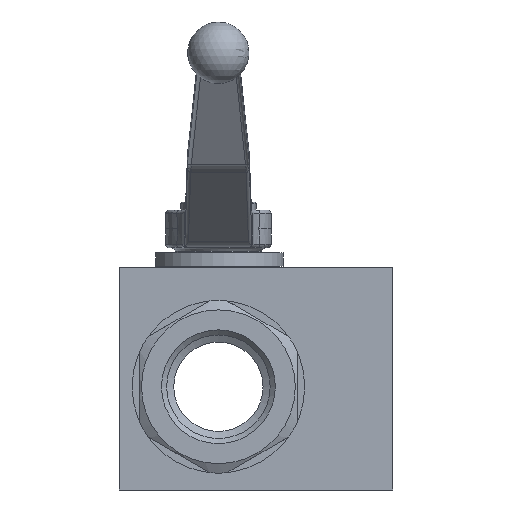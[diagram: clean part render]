
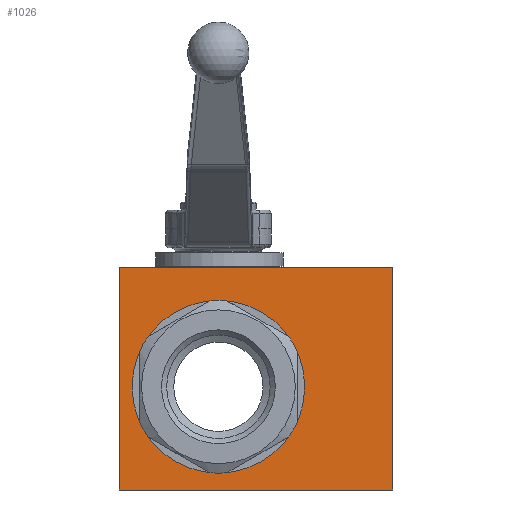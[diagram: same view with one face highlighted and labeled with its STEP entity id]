
A CAD part, front view. The second image highlights one B-rep face of the part: STEP entity #1026.
In plain terms, the highlighted planar face has unit normal (0, -1, 0).
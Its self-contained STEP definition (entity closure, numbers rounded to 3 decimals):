
#1026 = ADVANCED_FACE( '', ( #2000, #2001 ), #2002, .T. );
#2000 = FACE_BOUND( '', #3766, .T. );
#2001 = FACE_OUTER_BOUND( '', #3767, .T. );
#2002 = PLANE( '', #3768 );
#3766 = EDGE_LOOP( '', ( #6026 ) );
#3767 = EDGE_LOOP( '', ( #6027, #6028, #6029, #6030 ) );
#3768 = AXIS2_PLACEMENT_3D( '', #6031, #6032, #6033 );
#6026 = ORIENTED_EDGE( '', *, *, #6851, .F. );
#6027 = ORIENTED_EDGE( '', *, *, #7353, .T. );
#6028 = ORIENTED_EDGE( '', *, *, #6666, .T. );
#6029 = ORIENTED_EDGE( '', *, *, #6580, .T. );
#6030 = ORIENTED_EDGE( '', *, *, #7091, .T. );
#6031 = CARTESIAN_POINT( '', ( -29., -32.5, 34.8 ) );
#6032 = DIRECTION( '', ( 0., -1., 0. ) );
#6033 = DIRECTION( '', ( 0., 0., -1. ) );
#6580 = EDGE_CURVE( '', #7676, #7674, #7677, .T. );
#6666 = EDGE_CURVE( '', #7820, #7676, #7821, .T. );
#6851 = EDGE_CURVE( '', #8124, #8124, #8125, .T. );
#7091 = EDGE_CURVE( '', #7674, #8466, #8468, .T. );
#7353 = EDGE_CURVE( '', #8466, #7820, #8789, .T. );
#7674 = VERTEX_POINT( '', #9831 );
#7676 = VERTEX_POINT( '', #9834 );
#7677 = LINE( '', #9835, #9836 );
#7820 = VERTEX_POINT( '', #10294 );
#7821 = LINE( '', #10295, #10296 );
#8124 = VERTEX_POINT( '', #10947 );
#8125 = CIRCLE( '', #10948, 25.25 );
#8466 = VERTEX_POINT( '', #12019 );
#8468 = LINE( '', #12022, #12023 );
#8789 = LINE( '', #12694, #12695 );
#9831 = CARTESIAN_POINT( '', ( 51., -32.5, -30.2 ) );
#9834 = CARTESIAN_POINT( '', ( -29., -32.5, -30.2 ) );
#9835 = CARTESIAN_POINT( '', ( -29., -32.5, -30.2 ) );
#9836 = VECTOR( '', #12970, 1000. );
#10294 = CARTESIAN_POINT( '', ( -29., -32.5, 34.8 ) );
#10295 = CARTESIAN_POINT( '', ( -29., -32.5, 34.8 ) );
#10296 = VECTOR( '', #13070, 1000. );
#10947 = CARTESIAN_POINT( '', ( -25.25, -32.5, 0. ) );
#10948 = AXIS2_PLACEMENT_3D( '', #13299, #13300, #13301 );
#12019 = CARTESIAN_POINT( '', ( 51., -32.5, 34.8 ) );
#12022 = CARTESIAN_POINT( '', ( 51., -32.5, -30.2 ) );
#12023 = VECTOR( '', #13538, 1000. );
#12694 = CARTESIAN_POINT( '', ( 51., -32.5, 34.8 ) );
#12695 = VECTOR( '', #13787, 1000. );
#12970 = DIRECTION( '', ( 1., 0., 0. ) );
#13070 = DIRECTION( '', ( 0., 0., -1. ) );
#13299 = CARTESIAN_POINT( '', ( 0., -32.5, 0. ) );
#13300 = DIRECTION( '', ( 0., -1., 0. ) );
#13301 = DIRECTION( '', ( -1., 0., 0. ) );
#13538 = DIRECTION( '', ( 0., 0., 1. ) );
#13787 = DIRECTION( '', ( -1., 0., 0. ) );
